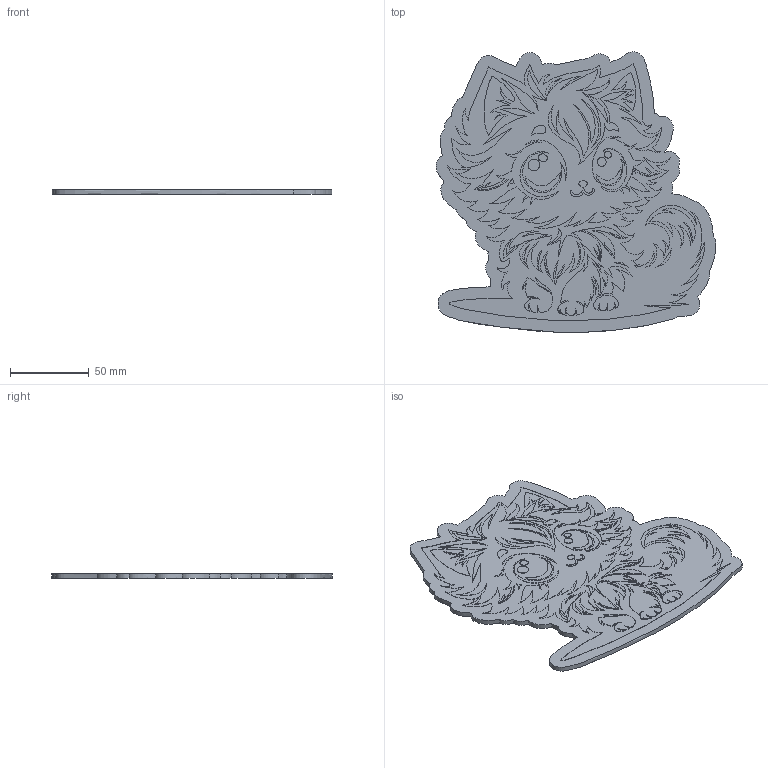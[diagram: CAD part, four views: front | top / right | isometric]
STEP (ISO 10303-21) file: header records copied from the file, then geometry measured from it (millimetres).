
FILE_DESCRIPTION(('STEP AP214'),'1');
FILE_NAME('2.stp','2026-07-04T12:17:02',(' '),(' '),'Spatial InterOp 3D',' ',' ');
FILE_SCHEMA(('AUTOMOTIVE_DESIGN { 1 0 10303 214 1 1 1 1 }'));
Length unit declared in the file: metre
Products named in the file (21): 1783167544; 1783188322; 1783188326; 1783188330; 1783188334; 1783188335; 1783188336; 1783188337; 1783188338; 1783188339; 1783188341; 1783188342; 1783188343; 1783188344; 1783188345; 1783188353; 1783188356; 1783188357; 1783188358; 1783188359; 1
Bounding box: 178.01 x 178.27 x 3 mm (x, y, z)
Volume: 71748.9 mm3; surface area: 57737.5 mm2
Topology: 20 solids, 20 shells, 458 faces, 1609 edges, 1200 vertices
Faces by surface type: extrusion 406, plane 52
Entity records: 29230 total; most frequent: CARTESIAN_POINT 13712, ORIENTED_EDGE 2446, B_SPLINE_CURVE_WITH_KNOTS 1578, EDGE_CURVE 1223, DIRECTION 961, VERTEX_POINT 818, VECTOR 815, STYLED_ITEM 550
